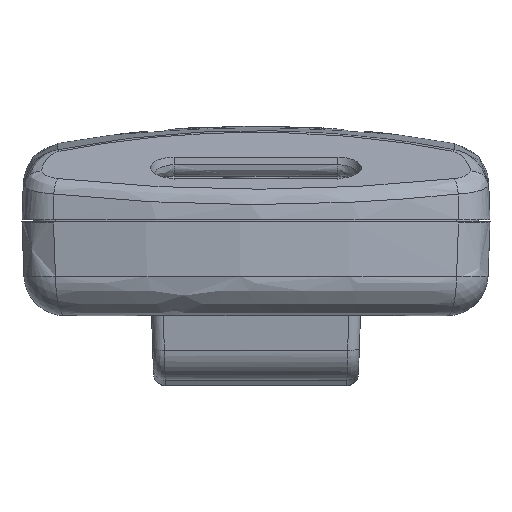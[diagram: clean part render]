
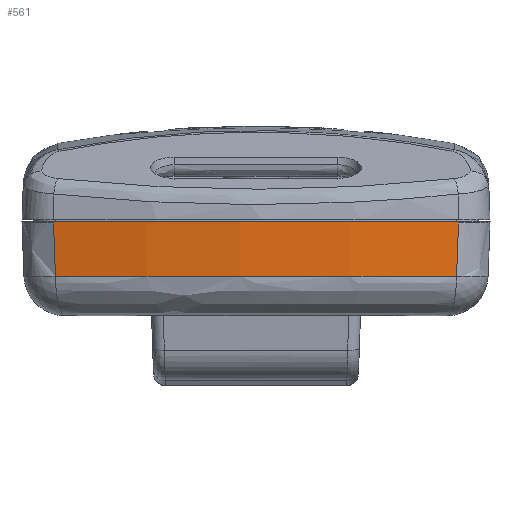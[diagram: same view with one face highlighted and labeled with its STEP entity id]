
A CAD part, front view. The second image highlights one B-rep face of the part: STEP entity #561.
In plain terms, the highlighted free-form (B-spline) face has degree [2, 1] with [7, 2] control points.
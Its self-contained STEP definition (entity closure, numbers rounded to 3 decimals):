
#176=(
BOUNDED_SURFACE()
B_SPLINE_SURFACE(2,1,((#3915,#3916),(#3917,#3918),(#3919,#3920),(#3921,
#3922),(#3923,#3924),(#3925,#3926),(#3927,#3928)),.UNSPECIFIED.,.F.,.F.,
 .F.)
B_SPLINE_SURFACE_WITH_KNOTS((3,2,2,3),(2,2),(0.,0.006,0.994,
1.),(0.,1.),.UNSPECIFIED.)
GEOMETRIC_REPRESENTATION_ITEM()
RATIONAL_B_SPLINE_SURFACE(((1.,1.),(1.,1.),(1.,1.),(0.973,0.973),
(1.,1.),(1.,1.),(1.,1.)))
REPRESENTATION_ITEM('')
SURFACE()
);
#238=(
BOUNDED_CURVE()
B_SPLINE_CURVE(3,(#3900,#3901,#3902,#3903,#3904),.UNSPECIFIED.,.F.,.F.)
B_SPLINE_CURVE_WITH_KNOTS((4,1,4),(0.,0.854,1.),
 .UNSPECIFIED.)
CURVE()
GEOMETRIC_REPRESENTATION_ITEM()
RATIONAL_B_SPLINE_CURVE((1.,1.,1.,
1.,1.))
REPRESENTATION_ITEM('')
);
#239=(
BOUNDED_CURVE()
B_SPLINE_CURVE(2,(#3906,#3907,#3908,#3909,#3910),.UNSPECIFIED.,.F.,.F.)
B_SPLINE_CURVE_WITH_KNOTS((3,1,1,3),(0.,0.,1.,
1.),.UNSPECIFIED.)
CURVE()
GEOMETRIC_REPRESENTATION_ITEM()
RATIONAL_B_SPLINE_CURVE((1.,1.,0.973,1.,1.))
REPRESENTATION_ITEM('')
);
#375=B_SPLINE_CURVE_WITH_KNOTS('',3,(#3873,#3874,#3875,#3876,#3877,#3878,
#3879,#3880,#3881,#3882,#3883,#3884,#3885,#3886,#3887,#3888,#3889,#3890,
#3891,#3892,#3893,#3894,#3895,#3896,#3897),.UNSPECIFIED.,.F.,.F.,(4,3,3,
3,3,3,3,3,4),(0.,0.057,0.12,0.247,
0.5,0.753,0.879,0.943,
1.),.UNSPECIFIED.);
#376=B_SPLINE_CURVE_WITH_KNOTS('',2,(#3912,#3913,#3914),.UNSPECIFIED.,.F.,
 .F.,(3,3),(0.,1.),.UNSPECIFIED.);
#561=ADVANCED_FACE('',(#795),#176,.T.);
#795=FACE_OUTER_BOUND('',#955,.T.);
#955=EDGE_LOOP('',(#1207,#1208,#1209,#1210));
#1207=ORIENTED_EDGE('',*,*,#2320,.F.);
#1208=ORIENTED_EDGE('',*,*,#2321,.F.);
#1209=ORIENTED_EDGE('',*,*,#2322,.T.);
#1210=ORIENTED_EDGE('',*,*,#2323,.F.);
#2045=VERTEX_POINT('',#3898);
#2046=VERTEX_POINT('',#3899);
#2047=VERTEX_POINT('',#3905);
#2048=VERTEX_POINT('',#3911);
#2320=EDGE_CURVE('',#2045,#2046,#375,.T.);
#2321=EDGE_CURVE('',#2047,#2045,#238,.T.);
#2322=EDGE_CURVE('',#2047,#2048,#239,.T.);
#2323=EDGE_CURVE('',#2046,#2048,#376,.T.);
#3873=CARTESIAN_POINT('',(2.859,-3.278,4.622));
#3874=CARTESIAN_POINT('',(3.495,-3.426,4.622));
#3875=CARTESIAN_POINT('',(4.143,-3.57,4.622));
#3876=CARTESIAN_POINT('',(4.789,-3.705,4.622));
#3877=CARTESIAN_POINT('',(5.504,-3.853,4.622));
#3878=CARTESIAN_POINT('',(6.219,-3.991,4.622));
#3879=CARTESIAN_POINT('',(6.938,-4.118,4.622));
#3880=CARTESIAN_POINT('',(8.374,-4.373,4.622));
#3881=CARTESIAN_POINT('',(9.818,-4.585,4.622));
#3882=CARTESIAN_POINT('',(11.267,-4.755,4.622));
#3883=CARTESIAN_POINT('',(14.165,-5.096,4.622));
#3884=CARTESIAN_POINT('',(17.082,-5.267,4.622));
#3885=CARTESIAN_POINT('',(20.,-5.267,4.622));
#3886=CARTESIAN_POINT('',(22.918,-5.267,4.622));
#3887=CARTESIAN_POINT('',(25.835,-5.096,4.622));
#3888=CARTESIAN_POINT('',(28.733,-4.755,4.622));
#3889=CARTESIAN_POINT('',(30.182,-4.585,4.622));
#3890=CARTESIAN_POINT('',(31.626,-4.373,4.622));
#3891=CARTESIAN_POINT('',(33.063,-4.118,4.622));
#3892=CARTESIAN_POINT('',(33.781,-3.991,4.622));
#3893=CARTESIAN_POINT('',(34.496,-3.853,4.622));
#3894=CARTESIAN_POINT('',(35.211,-3.705,4.622));
#3895=CARTESIAN_POINT('',(35.858,-3.57,4.622));
#3896=CARTESIAN_POINT('',(36.506,-3.426,4.622));
#3897=CARTESIAN_POINT('',(37.142,-3.278,4.622));
#3898=CARTESIAN_POINT('',(2.859,-3.278,4.622));
#3899=CARTESIAN_POINT('',(37.141,-3.278,4.622));
#3900=CARTESIAN_POINT('',(2.691,-3.403,0.));
#3901=CARTESIAN_POINT('',(2.738,-3.367,1.316));
#3902=CARTESIAN_POINT('',(2.794,-3.325,2.857));
#3903=CARTESIAN_POINT('',(2.85,-3.283,4.398));
#3904=CARTESIAN_POINT('',(2.858,-3.277,4.622));
#3905=CARTESIAN_POINT('',(2.691,-3.403,0.));
#3906=CARTESIAN_POINT('',(2.691,-3.403,0.));
#3907=CARTESIAN_POINT('',(2.691,-3.404,0.));
#3908=CARTESIAN_POINT('',(20.,-7.509,0.));
#3909=CARTESIAN_POINT('',(37.309,-3.404,0.));
#3910=CARTESIAN_POINT('',(37.309,-3.403,0.));
#3911=CARTESIAN_POINT('',(37.309,-3.403,0.));
#3912=CARTESIAN_POINT('',(37.142,-3.277,4.622));
#3913=CARTESIAN_POINT('',(37.226,-3.34,2.311));
#3914=CARTESIAN_POINT('',(37.309,-3.403,0.));
#3915=CARTESIAN_POINT('',(37.474,-3.198,4.65));
#3916=CARTESIAN_POINT('',(37.511,-3.356,0.));
#3917=CARTESIAN_POINT('',(37.372,-3.222,4.65));
#3918=CARTESIAN_POINT('',(37.41,-3.38,0.));
#3919=CARTESIAN_POINT('',(37.27,-3.246,4.65));
#3920=CARTESIAN_POINT('',(37.308,-3.404,0.));
#3921=CARTESIAN_POINT('',(20.,-7.342,4.65));
#3922=CARTESIAN_POINT('',(20.,-7.509,0.));
#3923=CARTESIAN_POINT('',(2.73,-3.246,4.65));
#3924=CARTESIAN_POINT('',(2.692,-3.404,0.));
#3925=CARTESIAN_POINT('',(2.628,-3.222,4.65));
#3926=CARTESIAN_POINT('',(2.59,-3.38,0.));
#3927=CARTESIAN_POINT('',(2.526,-3.198,4.65));
#3928=CARTESIAN_POINT('',(2.489,-3.356,0.));
